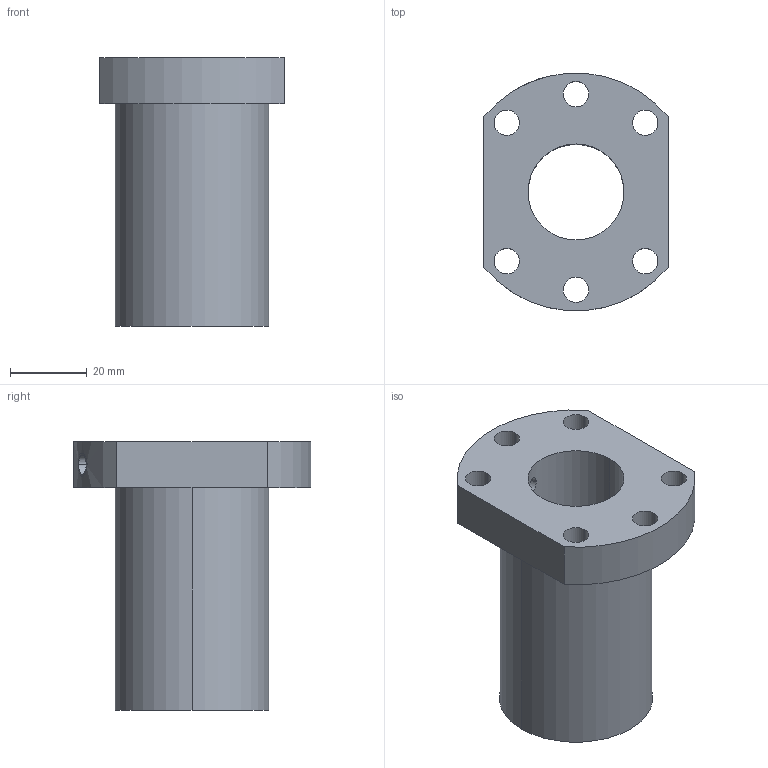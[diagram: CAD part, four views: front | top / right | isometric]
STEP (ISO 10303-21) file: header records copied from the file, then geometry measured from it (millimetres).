
FILE_DESCRIPTION((''),'2;1');
FILE_NAME('A10WHHA1','2018-09-04T',('wayne16941.lin'),(''),'PRO/ENGINEER BY PARAMETRIC TECHNOLOGY CORPORATION, 2012200','PRO/ENGINEER BY PARAMETRIC TECHNOLOGY CORPORATION, 2012200','');
FILE_SCHEMA(('CONFIG_CONTROL_DESIGN'));
Length unit declared in the file: millimetre
Products named in the file (1): A10WHHA1
Bounding box: 48 x 61.8 x 70 mm (x, y, z)
Volume: 67428.5 mm3; surface area: 20841.8 mm2
Topology: 1 solids, 2 shells, 32 faces, 84 edges, 56 vertices
Faces by surface type: cylinder 24, plane 6, cone 2
Entity records: 1164 total; most frequent: CARTESIAN_POINT 267, DIRECTION 186, ORIENTED_EDGE 162, EDGE_CURVE 84, AXIS2_PLACEMENT_3D 77, VERTEX_POINT 56, EDGE_LOOP 50, CIRCLE 44
